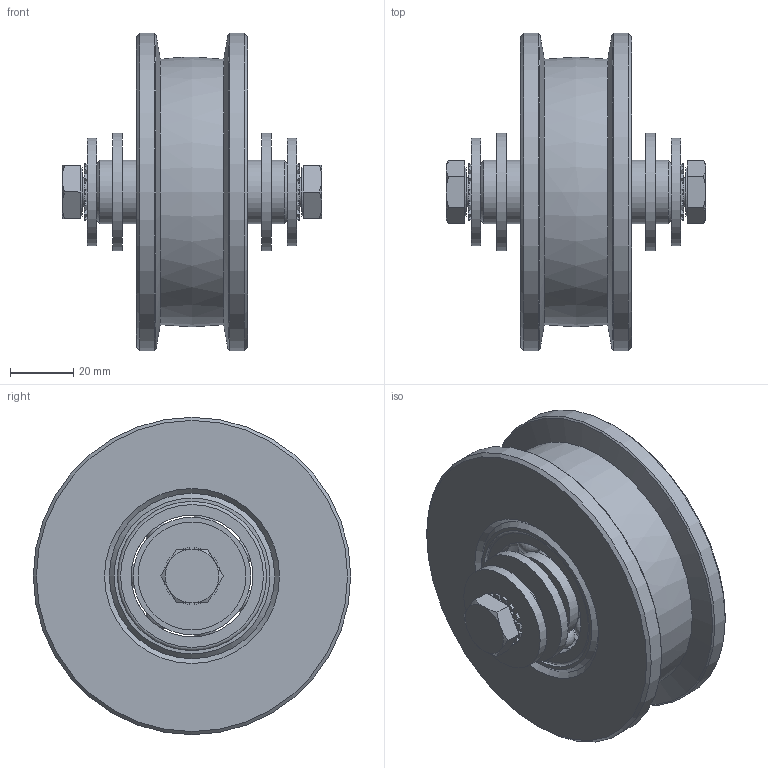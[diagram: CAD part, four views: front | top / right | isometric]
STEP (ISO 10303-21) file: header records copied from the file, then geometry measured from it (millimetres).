
FILE_DESCRIPTION(/* description */ ('Rolle Ø100'),/* implementation_level */ '2;1');
FILE_NAME(/* name */ 'Q:\sge-ma\Produktmanagement-STB\STB\Workspace\stp\010337636.stp',/* time_stamp */ '2016-07-22T07:47:59+02:00',/* author */ ('avschreier'),/* organization */ (''),/* preprocessor_version */ 'ST-DEVELOPER v16.1',/* originating_system */ 'Autodesk Inventor 2016',/* authorisation */ '');
FILE_SCHEMA (('CONFIG_CONTROL_DESIGN'));
Length unit declared in the file: millimetre
Products named in the file (9): 337000181; 337000179; 337000180; DIN_625-6204_en; DIN_EN_ISO_4017-M10x20_en; ISO_7094-10_en; DIN_EN_ISO_7090-21_en; DIN_6798-A_10,5_en; 010337636
Assembly tree (13 placements, depth 2):
  010337636
    337000181
    337000179
    337000180
    DIN_625-6204_en  x2
    DIN_EN_ISO_4017-M10x20_en  x2
    ISO_7094-10_en  x2
    DIN_EN_ISO_7090-21_en  x2
    DIN_6798-A_10,5_en  x2
Bounding box: 81.8 x 100 x 100 mm (x, y, z)
Volume: 226784.2 mm3; surface area: 68994.4 mm2
Topology: 13 solids, 13 shells, 367 faces, 1027 edges, 670 vertices
Faces by surface type: cylinder 166, plane 114, cone 36, torus 36, sphere 14, bspline 1
Full cylindrical faces by diameter (mm): 8.376 x2, 9.188 x2, 10 x2, 10.5 x2, 11 x2, 15.4 x2, 20 x3, 20.5 x1, 21 x2, 28 x1, 28.64 x4, 34 x2, 37 x2, 38.36 x4, 41 x1, 47 x4, 100 x2
Entity records: 6924 total; most frequent: CARTESIAN_POINT 1831, DIRECTION 1088, ORIENTED_EDGE 948, EDGE_CURVE 474, AXIS2_PLACEMENT_3D 458, VERTEX_POINT 337, EDGE_LOOP 281, CIRCLE 233
